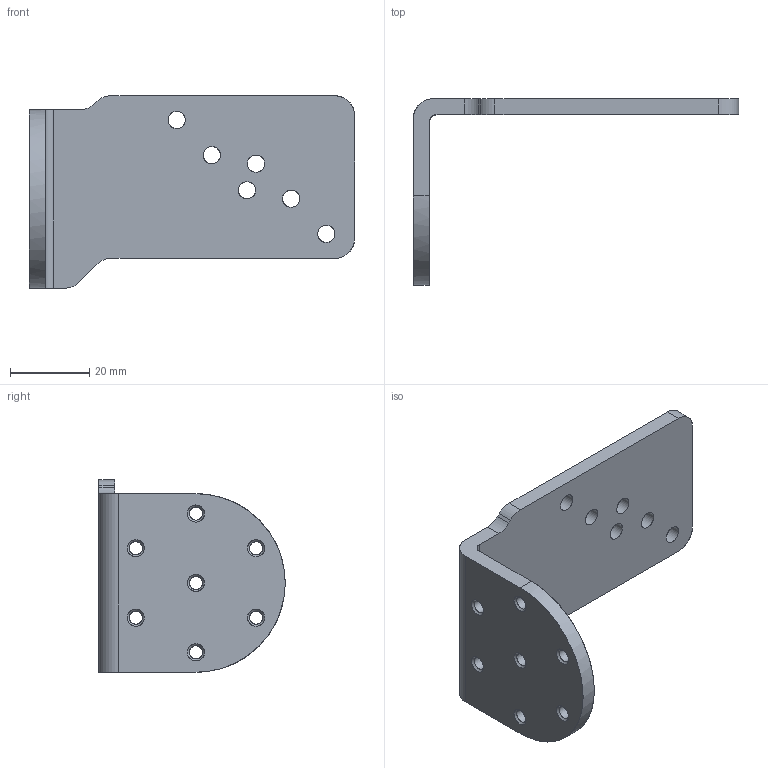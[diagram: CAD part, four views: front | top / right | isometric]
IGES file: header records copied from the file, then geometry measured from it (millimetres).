
Global section: file name: C:\Users\Acarrieri\OneDrive - Datalogic S.p.a\Desktop\PDS\00-M320\5MP\3D\DSD\DSD-1083_ST-1033\MP031628_02_IGS_DSD-1083.igs; native system: NX V1926; preprocessor: SIEMENS PLM Software NX 1946; date: 20211102.142720; units: millimetre
Bounding box: 82 x 47 x 48.5 mm (x, y, z)
Surface area: 11652.8 mm2 (no closed solid volume)
Topology: 0 solids, 0 shells, 44 faces, 462 edges, 442 vertices
Faces by surface type: bspline 44
